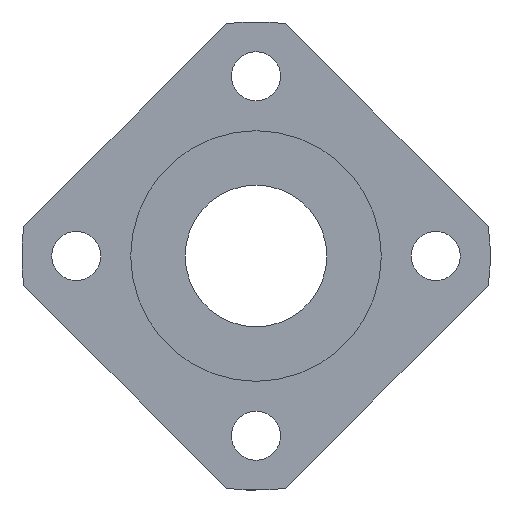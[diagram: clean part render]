
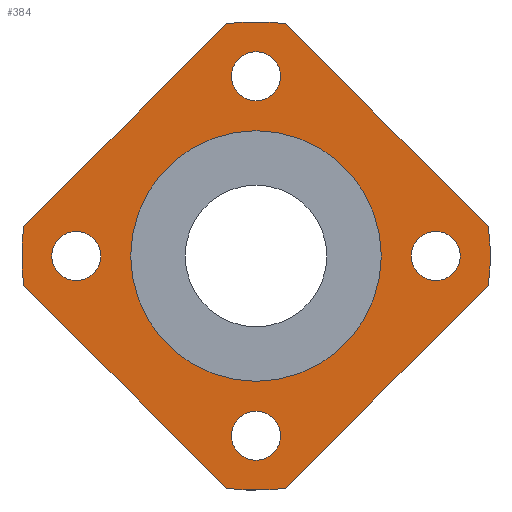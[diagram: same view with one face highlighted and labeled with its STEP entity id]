
A CAD part, left-side view. The second image highlights one B-rep face of the part: STEP entity #384.
In plain terms, the highlighted planar face has unit normal (-1, 0, 0).
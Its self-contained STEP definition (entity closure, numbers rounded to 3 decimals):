
#26=PLANE('',#445);
#41=LINE('',#664,#57);
#42=LINE('',#665,#58);
#43=LINE('',#666,#59);
#44=LINE('',#670,#60);
#57=VECTOR('',#546,1000.);
#58=VECTOR('',#547,1000.);
#59=VECTOR('',#548,1000.);
#60=VECTOR('',#551,1000.);
#102=ORIENTED_EDGE('',*,*,#184,.T.);
#103=ORIENTED_EDGE('',*,*,#155,.F.);
#104=ORIENTED_EDGE('',*,*,#185,.T.);
#105=ORIENTED_EDGE('',*,*,#159,.F.);
#106=ORIENTED_EDGE('',*,*,#186,.T.);
#107=ORIENTED_EDGE('',*,*,#187,.F.);
#108=ORIENTED_EDGE('',*,*,#188,.T.);
#109=ORIENTED_EDGE('',*,*,#153,.F.);
#110=ORIENTED_EDGE('',*,*,#189,.T.);
#111=ORIENTED_EDGE('',*,*,#190,.T.);
#112=ORIENTED_EDGE('',*,*,#191,.T.);
#113=ORIENTED_EDGE('',*,*,#192,.T.);
#114=ORIENTED_EDGE('',*,*,#172,.T.);
#153=EDGE_CURVE('',#197,#198,#232,.T.);
#155=EDGE_CURVE('',#199,#200,#233,.T.);
#159=EDGE_CURVE('',#203,#204,#235,.T.);
#172=EDGE_CURVE('',#216,#216,#246,.T.);
#184=EDGE_CURVE('',#197,#200,#41,.T.);
#185=EDGE_CURVE('',#199,#204,#42,.T.);
#186=EDGE_CURVE('',#203,#225,#43,.T.);
#187=EDGE_CURVE('',#226,#225,#254,.T.);
#188=EDGE_CURVE('',#226,#198,#44,.T.);
#189=EDGE_CURVE('',#227,#227,#255,.T.);
#190=EDGE_CURVE('',#228,#228,#256,.T.);
#191=EDGE_CURVE('',#229,#229,#257,.T.);
#192=EDGE_CURVE('',#230,#230,#258,.T.);
#197=VERTEX_POINT('',#594);
#198=VERTEX_POINT('',#596);
#199=VERTEX_POINT('',#600);
#200=VERTEX_POINT('',#601);
#203=VERTEX_POINT('',#609);
#204=VERTEX_POINT('',#610);
#216=VERTEX_POINT('',#640);
#225=VERTEX_POINT('',#667);
#226=VERTEX_POINT('',#669);
#227=VERTEX_POINT('',#672);
#228=VERTEX_POINT('',#674);
#229=VERTEX_POINT('',#676);
#230=VERTEX_POINT('',#678);
#232=CIRCLE('',#413,21.5);
#233=CIRCLE('',#415,21.5);
#235=CIRCLE('',#418,21.5);
#246=CIRCLE('',#434,11.5);
#254=CIRCLE('',#446,21.5);
#255=CIRCLE('',#447,2.25);
#256=CIRCLE('',#448,2.25);
#257=CIRCLE('',#449,2.25);
#258=CIRCLE('',#450,2.25);
#282=EDGE_LOOP('',(#102,#103,#104,#105,#106,#107,#108,#109));
#283=EDGE_LOOP('',(#110));
#284=EDGE_LOOP('',(#111));
#285=EDGE_LOOP('',(#112));
#286=EDGE_LOOP('',(#113));
#287=EDGE_LOOP('',(#114));
#332=FACE_BOUND('',#282,.T.);
#333=FACE_BOUND('',#283,.T.);
#334=FACE_BOUND('',#284,.T.);
#335=FACE_BOUND('',#285,.T.);
#336=FACE_BOUND('',#286,.T.);
#337=FACE_BOUND('',#287,.T.);
#384=ADVANCED_FACE('',(#332,#333,#334,#335,#336,#337),#26,.F.);
#413=AXIS2_PLACEMENT_3D('',#595,#471,#472);
#415=AXIS2_PLACEMENT_3D('',#599,#476,#477);
#418=AXIS2_PLACEMENT_3D('',#608,#484,#485);
#434=AXIS2_PLACEMENT_3D('',#639,#518,#519);
#445=AXIS2_PLACEMENT_3D('',#663,#544,#545);
#446=AXIS2_PLACEMENT_3D('',#668,#549,#550);
#447=AXIS2_PLACEMENT_3D('',#671,#552,#553);
#448=AXIS2_PLACEMENT_3D('',#673,#554,#555);
#449=AXIS2_PLACEMENT_3D('',#675,#556,#557);
#450=AXIS2_PLACEMENT_3D('',#677,#558,#559);
#471=DIRECTION('',(1.,0.,0.));
#472=DIRECTION('',(0.,0.,-1.));
#476=DIRECTION('',(1.,0.,0.));
#477=DIRECTION('',(0.,0.,-1.));
#484=DIRECTION('',(1.,0.,0.));
#485=DIRECTION('',(0.,0.,-1.));
#518=DIRECTION('',(1.,0.,0.));
#519=DIRECTION('',(0.,0.,-1.));
#544=DIRECTION('',(1.,0.,0.));
#545=DIRECTION('',(0.,0.,-1.));
#546=DIRECTION('',(0.,0.707,0.707));
#547=DIRECTION('',(0.,0.707,-0.707));
#548=DIRECTION('',(0.,-0.707,-0.707));
#549=DIRECTION('',(1.,0.,0.));
#550=DIRECTION('',(0.,0.,-1.));
#551=DIRECTION('',(0.,-0.707,0.707));
#552=DIRECTION('',(1.,0.,0.));
#553=DIRECTION('',(0.,0.,-1.));
#554=DIRECTION('',(1.,0.,0.));
#555=DIRECTION('',(0.,0.,-1.));
#556=DIRECTION('',(1.,0.,0.));
#557=DIRECTION('',(0.,0.,-1.));
#558=DIRECTION('',(1.,0.,0.));
#559=DIRECTION('',(0.,0.,-1.));
#594=CARTESIAN_POINT('',(24.5,-21.328,2.714));
#595=CARTESIAN_POINT('',(24.5,0.,0.));
#596=CARTESIAN_POINT('',(24.5,-21.328,-2.714));
#599=CARTESIAN_POINT('',(24.5,0.,0.));
#600=CARTESIAN_POINT('',(24.5,2.714,21.328));
#601=CARTESIAN_POINT('',(24.5,-2.714,21.328));
#608=CARTESIAN_POINT('',(24.5,0.,0.));
#609=CARTESIAN_POINT('',(24.5,21.328,-2.714));
#610=CARTESIAN_POINT('',(24.5,21.328,2.714));
#639=CARTESIAN_POINT('',(24.5,0.,0.));
#640=CARTESIAN_POINT('',(24.5,0.,-11.5));
#663=CARTESIAN_POINT('',(24.5,0.,0.));
#664=CARTESIAN_POINT('',(24.5,0.,24.042));
#665=CARTESIAN_POINT('',(24.5,24.042,0.));
#666=CARTESIAN_POINT('',(24.5,0.,-24.042));
#667=CARTESIAN_POINT('',(24.5,2.714,-21.328));
#668=CARTESIAN_POINT('',(24.5,0.,0.));
#669=CARTESIAN_POINT('',(24.5,-2.714,-21.328));
#670=CARTESIAN_POINT('',(24.5,-24.042,0.));
#671=CARTESIAN_POINT('',(24.5,0.,-16.5));
#672=CARTESIAN_POINT('',(24.5,0.,-18.75));
#673=CARTESIAN_POINT('',(24.5,-16.5,0.));
#674=CARTESIAN_POINT('',(24.5,-16.5,-2.25));
#675=CARTESIAN_POINT('',(24.5,0.,16.5));
#676=CARTESIAN_POINT('',(24.5,0.,14.25));
#677=CARTESIAN_POINT('',(24.5,16.5,0.));
#678=CARTESIAN_POINT('',(24.5,16.5,-2.25));
